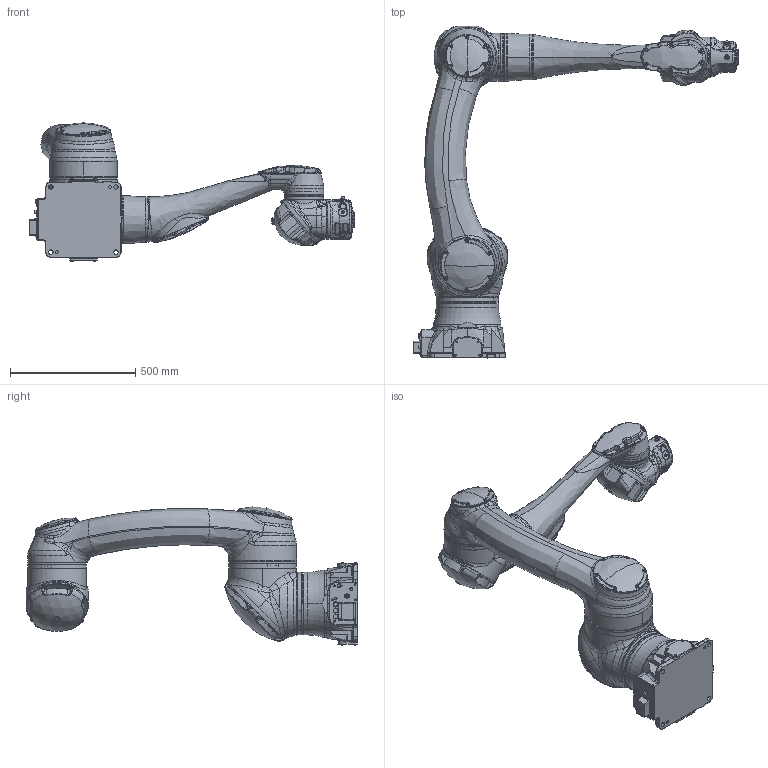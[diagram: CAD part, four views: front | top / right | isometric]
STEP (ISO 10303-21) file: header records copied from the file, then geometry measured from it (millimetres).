
FILE_DESCRIPTION(/* description */ (''),/* implementation_level */ '2;1');
FILE_NAME(/* name */ 'HC20DTP.stp',/* time_stamp */ '2021-10-21T21:19:35+02:00',/* author */ (''),/* organization */ (''),/* preprocessor_version */ 'ST-DEVELOPER v16.7',/* originating_system */ 'SIEMENS PLM Software NX 12.0',/* authorisation */ '');
FILE_SCHEMA (('AUTOMOTIVE_DESIGN { 1 0 10303 214 3 1 1 1 }'));
Products named in the file (8): T_VIEW_YR-1-06VXCP20-B00; B_VIEW_YR-1-06VXCP20-B00; R_VIEW_YR-1-06VXCP20-B00; U_VIEW_YR-1-06VXCP20-B00; L_VIEW_YR-1-06VXCP20-B00; S_VIEW_YR-1-06VXCP20-B00; BASE_VIEW_YR-1-06VXCP20-B00; HC20DTP
Assembly tree (7 placements, depth 2):
  HC20DTP
    BASE_VIEW_YR-1-06VXCP20-B00
    S_VIEW_YR-1-06VXCP20-B00
    L_VIEW_YR-1-06VXCP20-B00
    U_VIEW_YR-1-06VXCP20-B00
    R_VIEW_YR-1-06VXCP20-B00
    B_VIEW_YR-1-06VXCP20-B00
    T_VIEW_YR-1-06VXCP20-B00
Bounding box: 1293.65 x 1324 x 550.68 mm (x, y, z)
Volume: 92488795.5 mm3; surface area: 2829894.2 mm2
Topology: 7 solids, 12 shells, 4345 faces, 10471 edges, 6347 vertices
Faces by surface type: bspline 1418, plane 1018, cylinder 986, cone 550, torus 316, sphere 48, extrusion 9
Entity records: 236426 total; most frequent: CARTESIAN_POINT 144603, ORIENTED_EDGE 20838, DIRECTION 16410, EDGE_CURVE 10419, AXIS2_PLACEMENT_3D 6627, VERTEX_POINT 6347, EDGE_LOOP 4604, ADVANCED_FACE 4345
